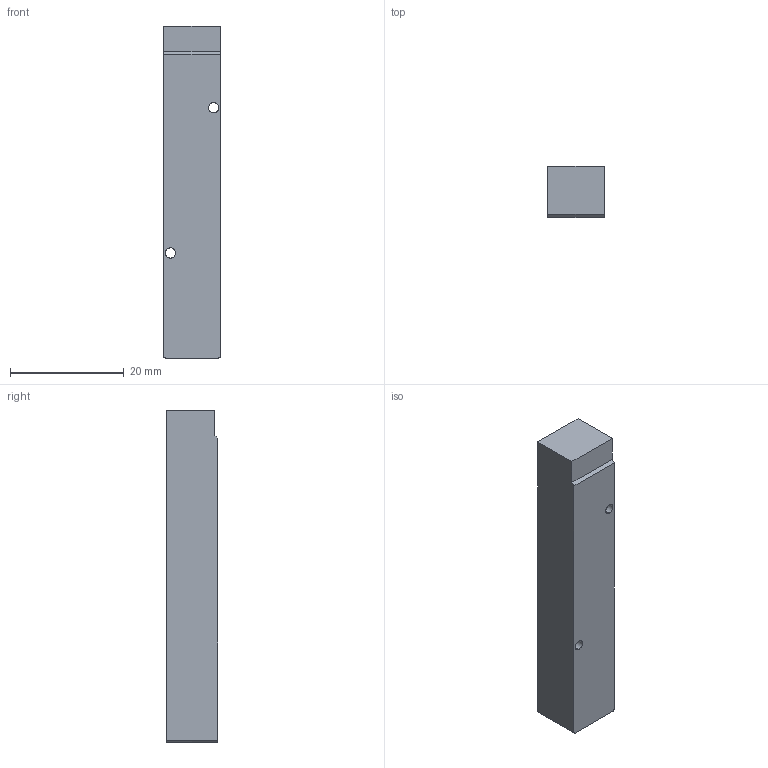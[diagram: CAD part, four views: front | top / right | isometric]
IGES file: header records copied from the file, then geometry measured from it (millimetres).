
Start section: ------------------------------------------------------------------------
Global section: file name: D:\ICADMX\tmp\trans3d_spg\CVICAD02.6860.F10ZX-Nxx_8559.igs; native system: spGate; preprocessor: ver12.6.6; author: Unknown; organization: Unknown; date: 200901.142420; units: millimetre
Bounding box: 10 x 9 x 58.5 mm (x, y, z)
Volume: 5096.8 mm3; surface area: 2563.3 mm2
Topology: 1 solids, 1 shells, 17 faces, 44 edges, 30 vertices
Faces by surface type: bspline 17
